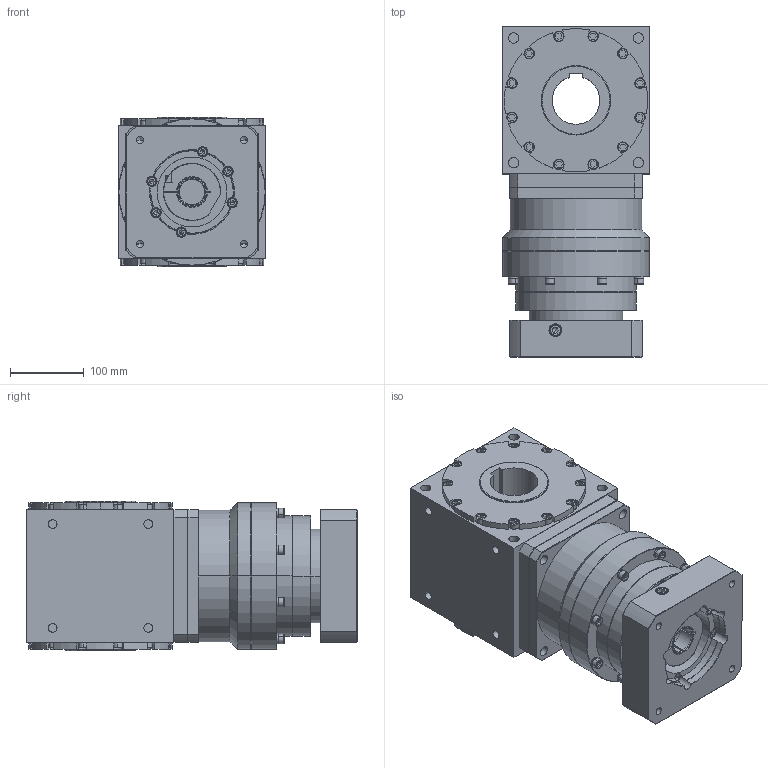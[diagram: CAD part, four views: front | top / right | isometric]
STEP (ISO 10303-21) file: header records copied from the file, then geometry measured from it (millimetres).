
FILE_DESCRIPTION (( 'STEP AP203' ), '1' );
FILE_NAME ('AAW200AS-L2-CR 35-114.3-200-M12.STEP', '2024-12-24T08:51:42', ( '' ), ( '' ), 'SwSTEP 2.0', 'SolidWorks 2021', '' );
FILE_SCHEMA (( 'CONFIG_CONTROL_DESIGN' ));
Length unit declared in the file: millimetre
Products named in the file (3): AAW200AS-CR; AAW200AS-L2-CR 35-114.3-200-M12; KS180L2-114.3-35-83-M12-200俋倛芞
Assembly tree (2 placements, depth 2):
  AAW200AS-L2-CR 35-114.3-200-M12
    AAW200AS-CR
    KS180L2-114.3-35-83-M12-200俋倛芞
Bounding box: 200 x 449 x 203 mm (x, y, z)
Volume: 13419463 mm3; surface area: 806954.7 mm2
Topology: 45 solids, 45 shells, 1485 faces, 3586 edges, 2266 vertices
Faces by surface type: plane 762, cylinder 513, cone 168, bspline 38, torus 4
Entity records: 43995 total; most frequent: CARTESIAN_POINT 8660, DIRECTION 7630, ORIENTED_EDGE 7052, EDGE_CURVE 3526, AXIS2_PLACEMENT_3D 2860, VERTEX_POINT 2266, LINE 1910, VECTOR 1910
